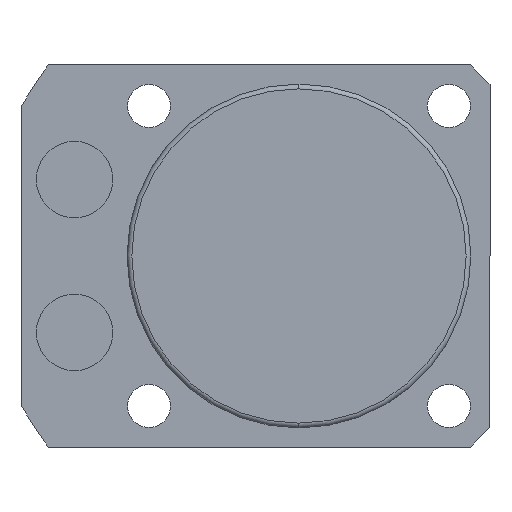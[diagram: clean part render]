
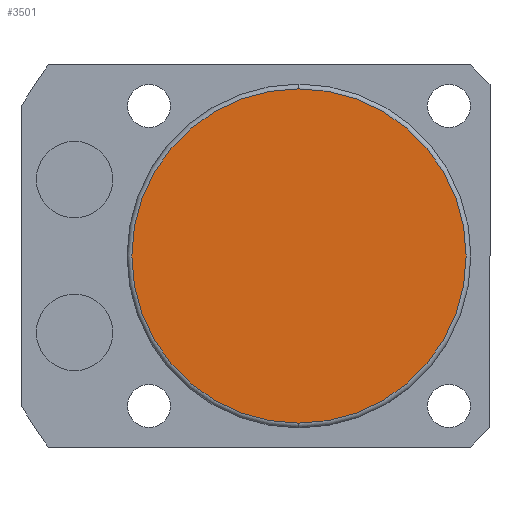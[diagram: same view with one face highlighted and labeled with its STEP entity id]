
A CAD part, front view. The second image highlights one B-rep face of the part: STEP entity #3501.
In plain terms, the highlighted planar face has unit normal (0, -1, 0).
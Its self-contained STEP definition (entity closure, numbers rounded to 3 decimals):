
#25 = EDGE_LOOP ( 'NONE', ( #161, #1464 ) ) ;
#33 = CARTESIAN_POINT ( 'NONE',  ( 0., -90.5, -17.5 ) ) ;
#95 = AXIS2_PLACEMENT_3D ( 'NONE', #1832, #230, #3007 ) ;
#142 = VERTEX_POINT ( 'NONE', #33 ) ;
#161 = ORIENTED_EDGE ( 'NONE', *, *, #4809, .T. ) ;
#230 = DIRECTION ( 'NONE',  ( 0., -1., 0. ) ) ;
#768 = DIRECTION ( 'NONE',  ( 0., -1., 0. ) ) ;
#881 = CARTESIAN_POINT ( 'NONE',  ( 0., -90.5, 17.5 ) ) ;
#1219 = DIRECTION ( 'NONE',  ( 0., -1., 0. ) ) ;
#1327 = VERTEX_POINT ( 'NONE', #881 ) ;
#1464 = ORIENTED_EDGE ( 'NONE', *, *, #4751, .T. ) ;
#1832 = CARTESIAN_POINT ( 'NONE',  ( 0., -90.5, 0. ) ) ;
#1842 = AXIS2_PLACEMENT_3D ( 'NONE', #1954, #1219, #1988 ) ;
#1954 = CARTESIAN_POINT ( 'NONE',  ( 0., -90.5, 0. ) ) ;
#1988 = DIRECTION ( 'NONE',  ( 0., 0., -1. ) ) ;
#2069 = AXIS2_PLACEMENT_3D ( 'NONE', #3948, #768, #4735 ) ;
#2137 = CIRCLE ( 'NONE', #2069, 17.5 ) ;
#2587 = PLANE ( 'NONE',  #95 ) ;
#3007 = DIRECTION ( 'NONE',  ( 0., 0., -1. ) ) ;
#3501 = ADVANCED_FACE ( 'NONE', ( #4540 ), #2587, .T. ) ;
#3682 = CIRCLE ( 'NONE', #1842, 17.5 ) ;
#3948 = CARTESIAN_POINT ( 'NONE',  ( 0., -90.5, 0. ) ) ;
#4540 = FACE_OUTER_BOUND ( 'NONE', #25, .T. ) ;
#4735 = DIRECTION ( 'NONE',  ( 0., 0., -1. ) ) ;
#4751 = EDGE_CURVE ( 'NONE', #1327, #142, #3682, .T. ) ;
#4809 = EDGE_CURVE ( 'NONE', #142, #1327, #2137, .T. ) ;
